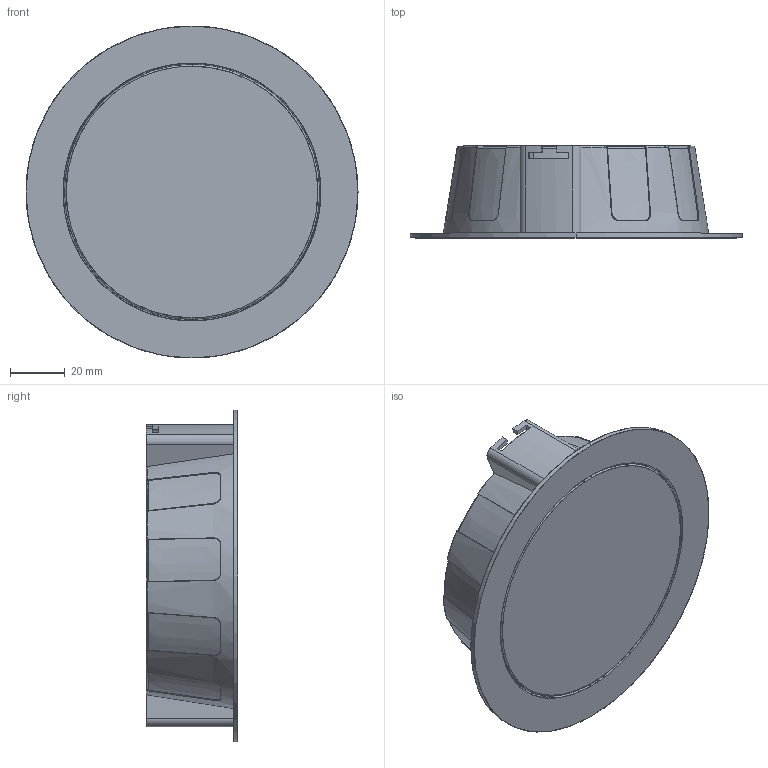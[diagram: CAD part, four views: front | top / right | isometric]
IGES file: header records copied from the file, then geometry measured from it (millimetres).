
Start section: SolidWorks IGES file using analytic representation for surfaces
Global section: file name: F:\GABRYSIA\MODELE 3D\OPRAWY\CL-KOS-LED-8782-WWW\CL-KOS-LED-8782.IGS; native system: SolidWorks 2017; preprocessor: SolidWorks 2017; author: Togambi; date: 200901.143146; units: millimetre
Bounding box: 120.96 x 33.48 x 120.96 mm (x, y, z)
Surface area: 55102.2 mm2 (no closed solid volume)
Topology: 0 solids, 0 shells, 247 faces, 3135 edges, 3136 vertices
Faces by surface type: bspline 171, revolution 76
